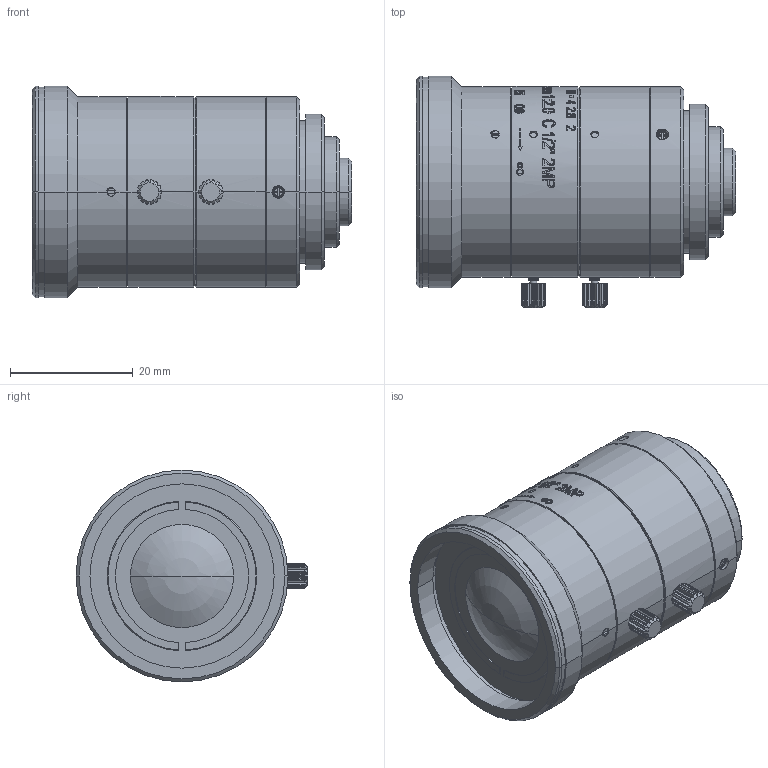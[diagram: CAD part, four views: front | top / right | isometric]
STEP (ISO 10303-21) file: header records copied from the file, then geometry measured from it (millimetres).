
FILE_DESCRIPTION((''),'2;1');
FILE_NAME('OPT-C0420-2M','2018-04-26T09:51:10',('dcsongs'),(''),'CREO PARAMETRIC BY PTC INC, 2017380','CREO PARAMETRIC BY PTC INC, 2017380','');
FILE_SCHEMA(('AUTOMOTIVE_DESIGN { 1 0 10303 214 1 1 1 1 }'));
Products named in the file (1): OPT-C0420-2M
Bounding box: 52 x 37.75 x 34.5 mm (x, y, z)
Volume: 33798.2 mm3; surface area: 7822.8 mm2
Topology: 1 solids, 2 shells, 1000 faces, 2826 edges, 1890 vertices
Faces by surface type: bspline 431, plane 295, cylinder 220, cone 34, torus 8, sphere 6, extrusion 6
Entity records: 45482 total; most frequent: CARTESIAN_POINT 22537, ORIENTED_EDGE 5640, DIRECTION 3253, EDGE_CURVE 2820, VERTEX_POINT 1890, B_SPLINE_CURVE_WITH_KNOTS 1184, VECTOR 1182, LINE 1176
